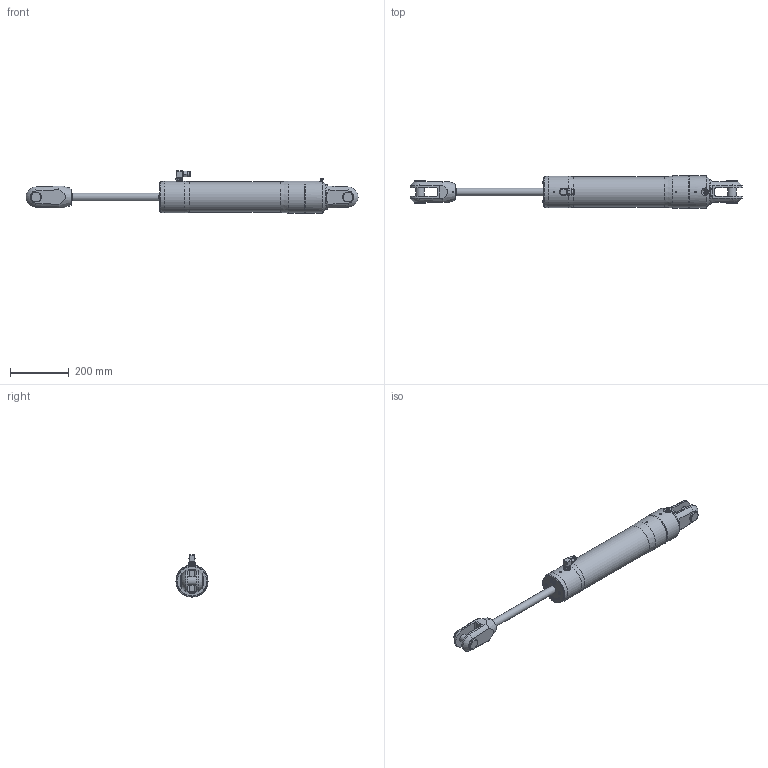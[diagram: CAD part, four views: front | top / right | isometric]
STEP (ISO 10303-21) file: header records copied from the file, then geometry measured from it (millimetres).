
FILE_DESCRIPTION(/* description */ (''),/* implementation_level */ '2;1');
FILE_NAME(/* name */ 'Q:\AA BRAND HYDRAULICS\HYDRAULICS FAMILY DIRECTORY\HYDRAULICS\CYLINDERS\RAMS\STAINLESS - STANDARD SINGLE ACTING (-0006 To -0260)\RSS-0048-S0300-NP-71\RSS-0048-S0300-NP-71 (Open).stp',/* time_stamp */ '2018-02-07T13:01:33+00:00',/* author */ ('Lorena'),/* organization */ (''),/* preprocessor_version */ 'ST-DEVELOPER v17',/* originating_system */ 'Autodesk Inventor 2018',/* authorisation */ '');
FILE_SCHEMA (('AUTOMOTIVE_DESIGN { 1 0 10303 214 3 1 1 }'));
Length unit declared in the file: millimetre
Products named in the file (1): RSS-0048-S0300-NP-71 (Open)
Bounding box: 1130.87 x 109.2 x 143.75 mm (x, y, z)
Volume: 5937247.3 mm3; surface area: 321190.1 mm2
Topology: 2 solids, 6 shells, 1769 faces, 4769 edges, 3157 vertices
Faces by surface type: plane 999, bspline 574, cone 111, cylinder 77, sphere 4, torus 4
Full cylindrical faces by diameter (mm): 4 x1, 4.134 x1, 5 x1, 6 x2, 6.5 x2, 7 x1, 7.5 x1, 8.1 x1, 9 x1, 10 x2, 14 x1, 14.35 x1, 14.662 x1, 15 x2, 15.662 x1, 16 x2, 16.662 x2, 18 x2, 21.4 x3, 25 x1, 26 x1, 28 x1, 28.58 x2, 35.725 x2, 102.6 x1, 104.2 x1, 107.2 x1, 108.2 x1, 109.2 x2
Entity records: 63245 total; most frequent: CARTESIAN_POINT 21095, ORIENTED_EDGE 9522, DIRECTION 6235, EDGE_CURVE 4761, VERTEX_POINT 3159, LINE 2957, VECTOR 2957, EDGE_LOOP 1936
